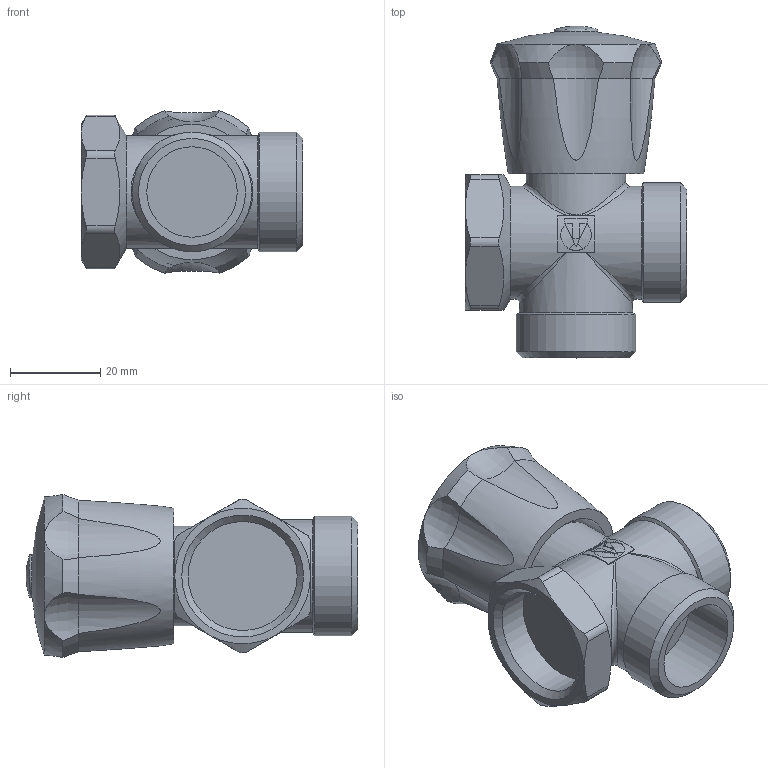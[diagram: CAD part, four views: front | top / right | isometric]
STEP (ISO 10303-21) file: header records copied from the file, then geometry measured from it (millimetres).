
FILE_DESCRIPTION(('STEP AP203'), '1');
FILE_NAME('VT.230.N.05', '', ('UNSPECIFIED'), ('UNSPECIFIED'), 'C3D Converter', 'C3D Toolkit', '');
FILE_SCHEMA(('CONFIG_CONTROL_DESIGN'));
Length unit declared in the file: millimetre
Products named in the file (1): ВР.493176.039.000 СБ
Bounding box: 49 x 73.39 x 36.01 mm (x, y, z)
Volume: 42086 mm3; surface area: 17711.2 mm2
Topology: 1 solids, 11 shells, 208 faces, 484 edges, 299 vertices
Faces by surface type: plane 98, cylinder 62, cone 30, torus 10, bspline 5, sphere 3
Full cylindrical faces by diameter (mm): 5.7 x1, 6.6 x1, 6.8 x1, 9 x2, 9.6 x1, 12.5 x1, 19.5 x1, 20 x1, 21 x1, 22 x1, 24.118 x1, 25 x2, 25.3 x1, 26.441 x2
Entity records: 10412 total; most frequent: CARTESIAN_POINT 5937, DIRECTION 904, ORIENTED_EDGE 888, EDGE_CURVE 444, AXIS2_PLACEMENT_3D 368, VERTEX_POINT 296, EDGE_LOOP 252, ADVANCED_FACE 206
